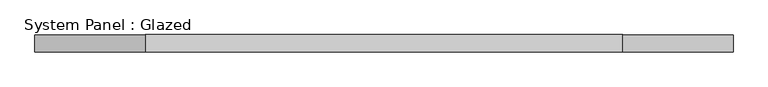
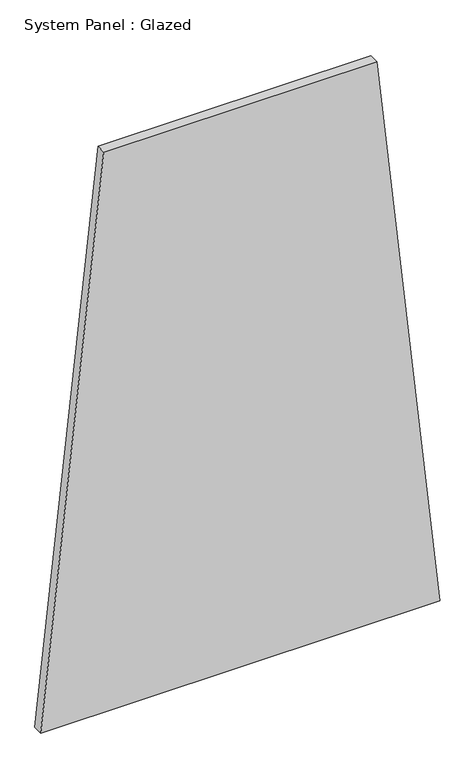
"""IFC4 building model written with IfcOpenShell, lengths in millimetres: plate geometry, System Panel : Glazed."""

from ifc_helpers import new_model, si_unit, frame, origin, place, context, project, spatial, polyline, outline, extrude, source, transform, mapped, element, save


def system_panel_glazed_07fdee45(model_context):
    return source(origin(), model_context, "Body", "SweptSolid", [
        extrude(outline(polyline([(0.0, -511.3293705), (0.0, 511.3293705), (1515.4191002, 349.8333926), (1515.4191002, -349.8333926), (0.0, -511.3293705)])), frame((0.0, -44.45, 0.0), z_axis=(0.0, 1.0, 0.0), x_axis=(0.0, 0.0, 1.0)), (0.0, 0.0, 1.0), 25.4),
    ])


if __name__ == "__main__":
    model = new_model("IFC4")
    model_context = context("Model", 3, world=origin())
    ifc_project = project(units=[si_unit("LENGTHUNIT", "METRE", prefix="MILLI")], contexts=[model_context])
    site = spatial("IfcSite", under=ifc_project)
    building = spatial("IfcBuilding", under=site)
    placement = place(None, origin())
    system_panel_glazed_shape = system_panel_glazed_07fdee45(model_context)
    element("IfcPlate", 1, ObjectType="System Panel : Glazed", at=placement, inside=building, context=model_context, shape_type="MappedRepresentation", body=[
        mapped(system_panel_glazed_shape, transform((0.0, 0.0, 0.0), x_axis=(1.0, 0.0, 0.0), y_axis=(0.0, 1.0, 0.0), z_axis=(0.0, 0.0, 1.0))),
    ])
    save(model, "model.ifc")
